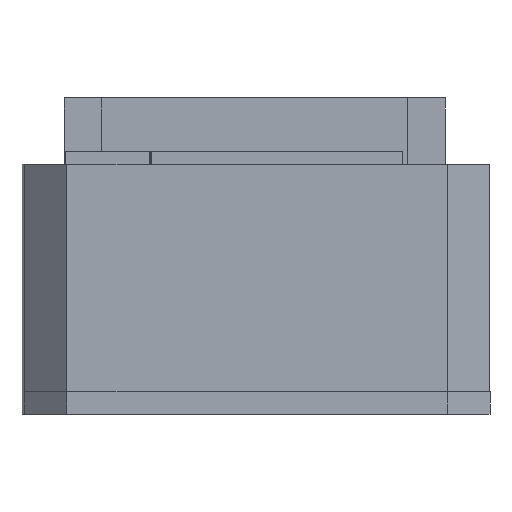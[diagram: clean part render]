
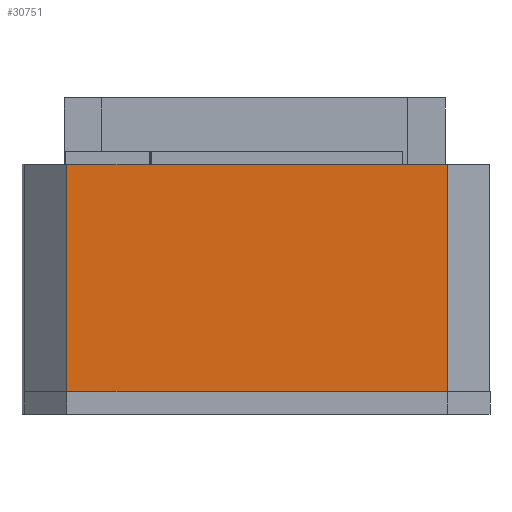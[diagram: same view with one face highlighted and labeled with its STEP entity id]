
A CAD part, front view. The second image highlights one B-rep face of the part: STEP entity #30751.
In plain terms, the highlighted planar face has unit normal (0.004, -1, 0).
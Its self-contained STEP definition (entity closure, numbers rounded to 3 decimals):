
#830 = CARTESIAN_POINT ( 'NONE',  ( -30.969, -45.141, -22.868 ) ) ;
#837 = CARTESIAN_POINT ( 'NONE',  ( -65.269, -45.28, -22.868 ) ) ;
#872 = CARTESIAN_POINT ( 'NONE',  ( -65.269, -45.28, -2.368 ) ) ;
#874 = CARTESIAN_POINT ( 'NONE',  ( -30.969, -45.141, -2.368 ) ) ;
#6661 = ORIENTED_EDGE ( 'NONE', *, *, #9975, .F. ) ;
#6662 = ORIENTED_EDGE ( 'NONE', *, *, #10026, .T. ) ;
#6663 = ORIENTED_EDGE ( 'NONE', *, *, #10006, .T. ) ;
#6664 = ORIENTED_EDGE ( 'NONE', *, *, #10027, .T. ) ;
#7787 = VERTEX_POINT ( 'NONE', #830 ) ;
#7791 = VERTEX_POINT ( 'NONE', #837 ) ;
#7810 = VERTEX_POINT ( 'NONE', #872 ) ;
#7811 = VERTEX_POINT ( 'NONE', #874 ) ;
#9975 = EDGE_CURVE ( 'NONE', #7787, #7791, #11211, .T. ) ;
#10006 = EDGE_CURVE ( 'NONE', #7811, #7810, #12675, .T. ) ;
#10026 = EDGE_CURVE ( 'NONE', #7787, #7811, #12715, .T. ) ;
#10027 = EDGE_CURVE ( 'NONE', #7810, #7791, #12717, .T. ) ;
#11211 = LINE ( 'NONE', #11402, #11212 ) ;
#11212 = VECTOR ( 'NONE', #11403, 1000. ) ;
#11402 = CARTESIAN_POINT ( 'NONE',  ( -27.119, -45.125, -22.868 ) ) ;
#11403 = DIRECTION ( 'NONE',  ( -1., -0.004, 0. ) ) ;
#11473 = CARTESIAN_POINT ( 'NONE',  ( -27.119, -45.125, -2.368 ) ) ;
#11474 = DIRECTION ( 'NONE',  ( -1., -0.004, 0. ) ) ;
#11513 = CARTESIAN_POINT ( 'NONE',  ( -30.969, -45.141, -2.368 ) ) ;
#11514 = DIRECTION ( 'NONE',  ( 0., 0., 1. ) ) ;
#11515 = CARTESIAN_POINT ( 'NONE',  ( -65.269, -45.28, -2.368 ) ) ;
#11516 = DIRECTION ( 'NONE',  ( 0., 0., -1. ) ) ;
#12675 = LINE ( 'NONE', #11473, #12676 ) ;
#12676 = VECTOR ( 'NONE', #11474, 1000. ) ;
#12715 = LINE ( 'NONE', #11513, #12716 ) ;
#12716 = VECTOR ( 'NONE', #11514, 1000. ) ;
#12717 = LINE ( 'NONE', #11515, #12718 ) ;
#12718 = VECTOR ( 'NONE', #11516, 1000. ) ;
#16387 = AXIS2_PLACEMENT_3D ( 'NONE', #22532, #22533, #22534 ) ;
#20151 = FACE_OUTER_BOUND ( 'NONE', #31417, .T. ) ;
#22531 = PLANE ( 'NONE',  #16387 ) ;
#22532 = CARTESIAN_POINT ( 'NONE',  ( -27.119, -45.125, -2.368 ) ) ;
#22533 = DIRECTION ( 'NONE',  ( 0.004, -1., 0. ) ) ;
#22534 = DIRECTION ( 'NONE',  ( 1., 0.004, 0. ) ) ;
#30751 = ADVANCED_FACE ( 'NONE', ( #20151 ), #22531, .T. ) ;
#31417 = EDGE_LOOP ( 'NONE', ( #6661, #6662, #6663, #6664 ) ) ;
